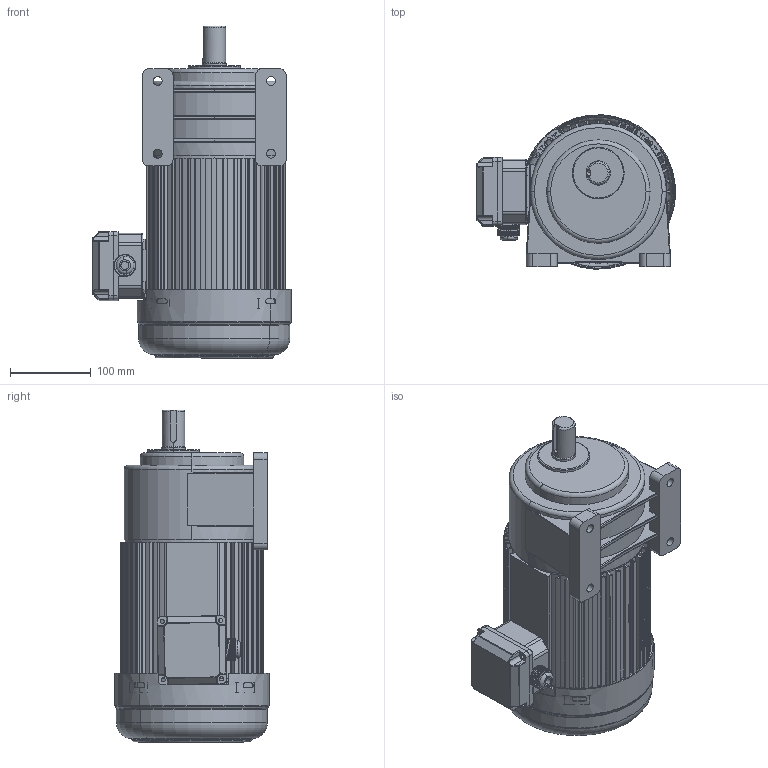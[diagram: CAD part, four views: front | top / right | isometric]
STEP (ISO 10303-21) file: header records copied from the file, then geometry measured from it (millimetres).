
FILE_DESCRIPTION (( 'STEP AP203' ), '1' );
FILE_NAME ('1500W饜3#湍价陬拏宒.STEP', '2020-04-16T08:53:35', ( 'china' ), ( 'china' ), 'SwSTEP 2.0', 'SolidWorks 2019', '' );
FILE_SCHEMA (( 'CONFIG_CONTROL_DESIGN' ));
Length unit declared in the file: millimetre
Products named in the file (8): 湍价陬諉盄碟裔; 1500W棠憤迖殤; 1500W拏宒3#眊极; 1500W儂褲; 1500W饜3#湍价陬拏宒; 瑞欶; 蜊輛綴諉盄碟釱3; 諉芛
Assembly tree (7 placements, depth 2):
  1500W饜3#湍价陬拏宒
    1500W儂褲
    瑞欶
    蜊輛綴諉盄碟釱3
    諉芛
    湍价陬諉盄碟裔
    1500W棠憤迖殤
    1500W拏宒3#眊极
Bounding box: 245.88 x 190.8 x 410.45 mm (x, y, z)
Volume: 3673819.6 mm3; surface area: 784967.6 mm2
Topology: 7 solids, 7 shells, 1892 faces, 5352 edges, 3504 vertices
Faces by surface type: plane 1039, cylinder 721, torus 52, bspline 42, cone 26, sphere 12
Entity records: 64892 total; most frequent: CARTESIAN_POINT 13410, ORIENTED_EDGE 10696, DIRECTION 10463, EDGE_CURVE 5348, VECTOR 3643, LINE 3643, VERTEX_POINT 3504, AXIS2_PLACEMENT_3D 3410
